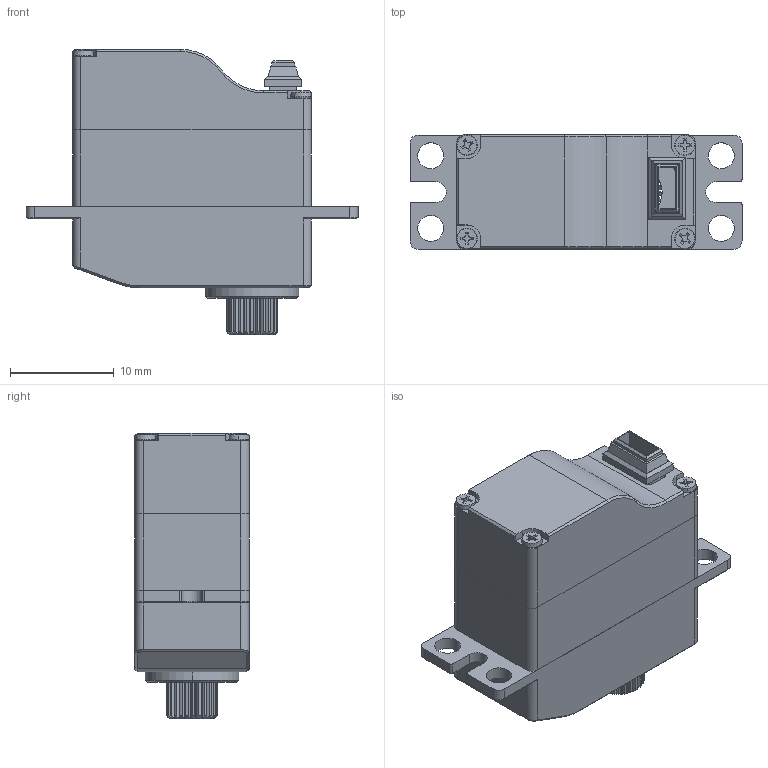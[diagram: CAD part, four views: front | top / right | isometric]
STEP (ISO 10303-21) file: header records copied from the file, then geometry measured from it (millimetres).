
FILE_DESCRIPTION (( 'STEP AP214' ), '1' );
FILE_NAME ('DS115_DM_20230415.STEP', '2023-10-09T07:58:49', ( '' ), ( '' ), 'SwSTEP 2.0', 'SolidWorks 2016', '' );
FILE_SCHEMA (( 'AUTOMOTIVE_DESIGN' ));
Length unit declared in the file: millimetre
Products named in the file (1): DS115_DM_20230415
Bounding box: 32 x 11 x 27.5 mm (x, y, z)
Surface area: 2554.4 mm2 (no closed solid volume)
Topology: 0 solids, 9 shells, 390 faces, 1080 edges, 708 vertices
Faces by surface type: plane 209, cylinder 114, cone 57, torus 8, bspline 2
Entity records: 16866 total; most frequent: CARTESIAN_POINT 2546, DIRECTION 2148, ORIENTED_EDGE 1942, EDGE_CURVE 1080, AXIS2_PLACEMENT_3D 745, VERTEX_POINT 708, VECTOR 658, LINE 658
